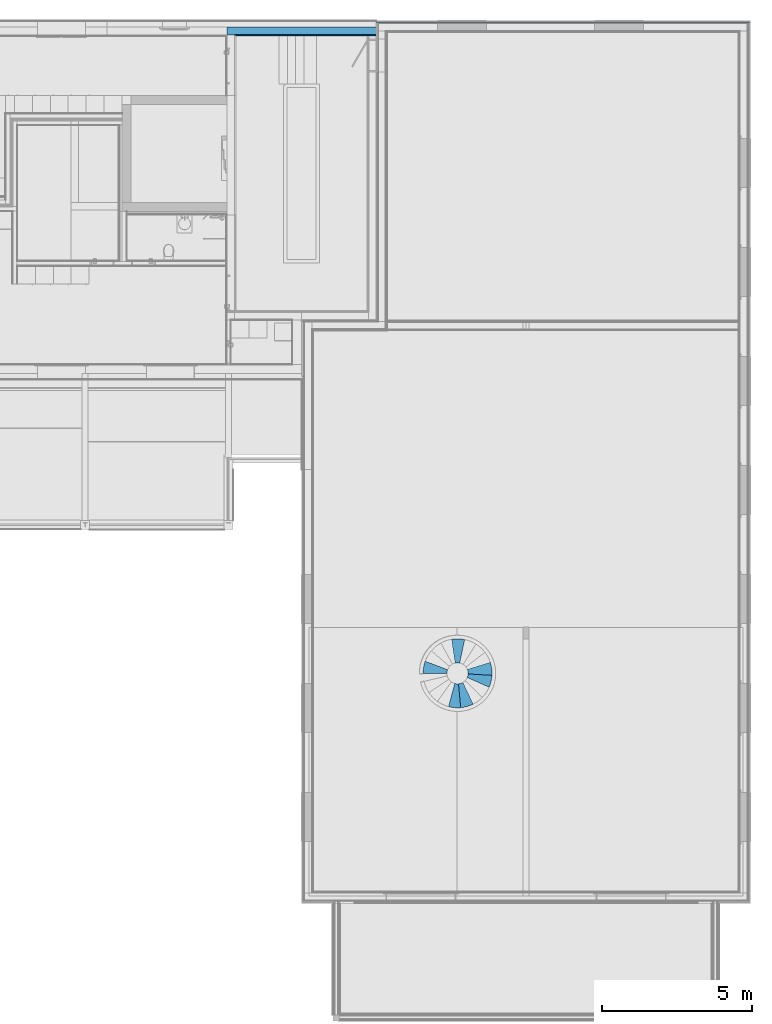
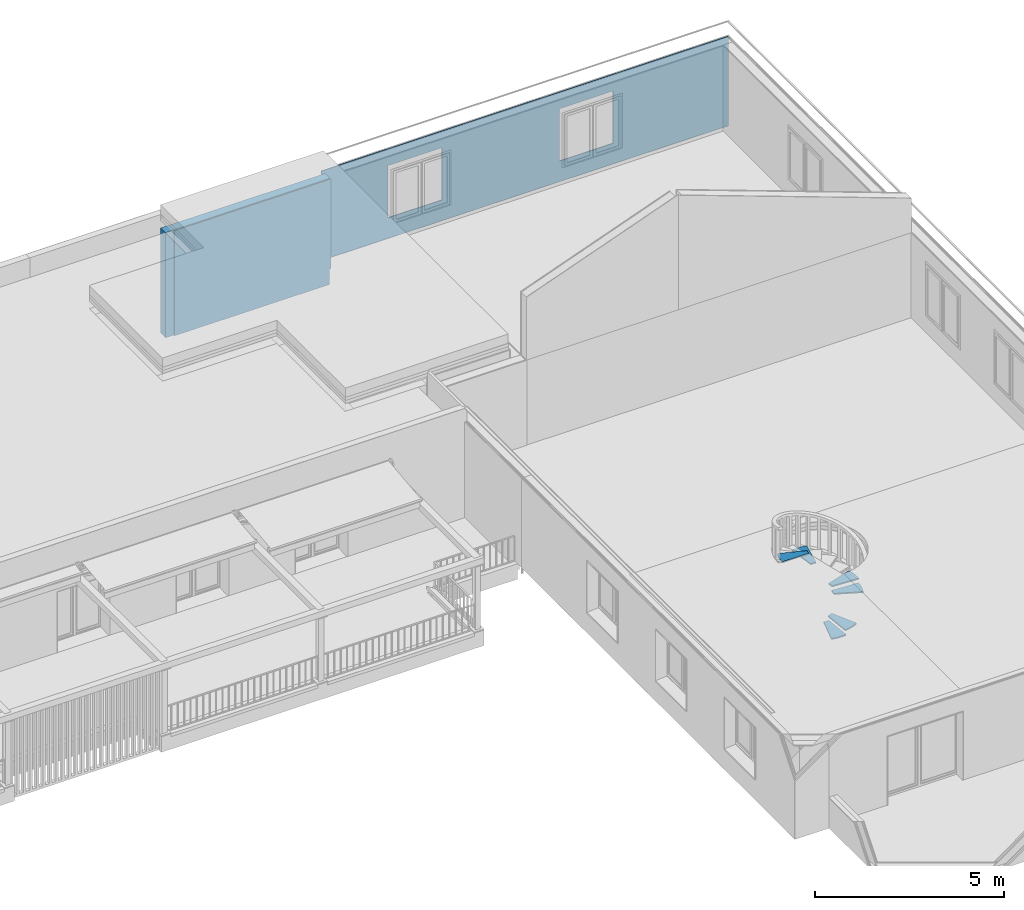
# One storey, part 19 of 36: 9 building element parts, 2 openings, 3 elements without a shape of their own.
"""IFC4 building model written with IfcOpenShell, lengths in millimetres."""

from ifc_helpers import new_model, entity, si_unit, converted_unit, derived_unit, direction, frame, origin_with_axes, place, context, subcontext, project, spatial, polygons, material, type_object, element, aggregate, save


model = new_model("IFC4")

# Units and contexts
model_context = context("Model", 3, precision=0.01, world=origin_with_axes(), true_north=direction((0.0, 1.0)))
body_context = subcontext(model_context, "Body", "Model", "MODEL_VIEW")
ifc_project = project(units=[si_unit("LENGTHUNIT", "METRE", prefix="MILLI"), si_unit("AREAUNIT", "SQUARE_METRE"), si_unit("VOLUMEUNIT", "CUBIC_METRE"), converted_unit("PLANEANGLEUNIT", "DEGREE", entity("IfcPlaneAngleMeasure", 0.0174532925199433), si_unit("PLANEANGLEUNIT", "RADIAN"), dimensions=[0, 0, 0, 0, 0, 0, 0]), converted_unit("TIMEUNIT", "Year", entity("IfcTimeMeasure", 31557600.0), si_unit("TIMEUNIT", "SECOND"), dimensions=[0, 0, 1, 0, 0, 0, 0]), si_unit("MASSUNIT", "GRAM", prefix="KILO"), si_unit("THERMODYNAMICTEMPERATUREUNIT", "DEGREE_CELSIUS"), si_unit("LUMINOUSINTENSITYUNIT", "LUMEN"), si_unit("ENERGYUNIT", "JOULE", prefix="MEGA"), derived_unit("THERMALCONDUCTANCEUNIT", [(si_unit("POWERUNIT", "WATT"), 1), (si_unit("LENGTHUNIT", "METRE"), -1), (si_unit("THERMODYNAMICTEMPERATUREUNIT", "KELVIN"), -1)]), derived_unit("SPECIFICHEATCAPACITYUNIT", [(si_unit("ENERGYUNIT", "JOULE"), 1), (si_unit("MASSUNIT", "GRAM", prefix="KILO"), -1), (si_unit("THERMODYNAMICTEMPERATUREUNIT", "KELVIN"), -1)]), derived_unit("MASSDENSITYUNIT", [(si_unit("MASSUNIT", "GRAM", prefix="KILO"), 1), (si_unit("VOLUMEUNIT", "CUBIC_METRE"), -1)])], contexts=[model_context])

# Site, building, storey
site_placement = place(None, origin_with_axes())
site = spatial("IfcSite", under=ifc_project, at=site_placement, Name="Gelände", CompositionType="ELEMENT")
building_placement = place(site_placement, origin_with_axes())
building = spatial("IfcBuilding", under=site, at=building_placement, Name="Gebäude", CompositionType="ELEMENT")
storey_placement = place(building_placement, frame((0.0, 0.0, 8700.0), z_axis=(0.0, 0.0, 1.0), x_axis=(1.0, 0.0, 0.0)))
storey = spatial("IfcBuildingStorey", under=building, at=storey_placement, Name="Attika", CompositionType="ELEMENT", Elevation=8700.0)

# Curtain wall, openings, building element part
curtain_wall_type = type_object("IfcCurtainWallType", Name="Fassade Typ 02 - Vertikale Schalung 71", PredefinedType="NOTDEFINED")
curtain_wall_placement = place(storey_placement, frame((32928.99744477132, 37947.59728131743, 500.0000000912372), z_axis=(0.0, 0.0, 1.0), x_axis=(-1.0, 0.0, 0.0)))
curtain_wall = element("IfcCurtainWall", 1, at=curtain_wall_placement, inside=storey, type_object=curtain_wall_type, Name="Wand-014", PredefinedType="NOTDEFINED")
opening_1_placement = place(curtain_wall_placement, frame((4391.999999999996, 0.0, 674.9999999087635), z_axis=(0.0, 0.0, 1.0), x_axis=(1.0, 0.0, 0.0)))
element("IfcOpeningElement", 2, at=opening_1_placement, cuts=curtain_wall, Name="Fenster-004", context=body_context, identifier="Reference", shape_type="Tessellation", body=[
    polygons([(-821.0000000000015, -0.9999999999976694, 1690.0), (-821.0000000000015, -0.9999999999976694, 0.0), (821.0000000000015, -0.9999999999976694, 0.0), (821.0000000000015, -0.9999999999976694, 1690.0), (-821.0000000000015, 71.99999999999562, 1690.0), (-821.0000000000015, 71.99999999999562, 0.0), (821.0000000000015, 71.99999999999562, 0.0), (821.0000000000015, 71.99999999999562, 1690.0)], [[[1, 2, 3, 4]], [[5, 6, 2, 1]], [[6, 7, 3, 2]], [[7, 8, 4, 3]], [[8, 5, 1, 4]], [[7, 6, 5, 8]]], closed=True),
])
opening_2_placement = place(curtain_wall_placement, frame((9633.999999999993, 0.0, 674.9999999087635), z_axis=(0.0, 0.0, 1.0), x_axis=(1.0, 0.0, 0.0)))
element("IfcOpeningElement", 3, at=opening_2_placement, cuts=curtain_wall, Name="Fenster-004", context=body_context, identifier="Reference", shape_type="Tessellation", body=[
    polygons([(-821.0000000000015, -0.9999999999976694, 1690.0), (-821.0000000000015, -0.9999999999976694, 0.0), (821.0000000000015, -0.9999999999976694, 0.0), (821.0000000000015, -0.9999999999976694, 1690.0), (-821.0000000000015, 71.99999999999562, 1690.0), (-821.0000000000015, 71.99999999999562, 0.0), (821.0000000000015, 71.99999999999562, 0.0), (821.0000000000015, 71.99999999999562, 1690.0)], [[[1, 2, 3, 4]], [[5, 6, 2, 1]], [[6, 7, 3, 2]], [[7, 8, 4, 3]], [[8, 5, 1, 4]], [[7, 6, 5, 8]]], closed=True),
])
ifc_material_1 = material(Name="Lattenrost vertikal")
building_element_part_1_placement = place(curtain_wall_placement, origin_with_axes())
building_element_part_1 = element("IfcBuildingElementPart", 4, at=building_element_part_1_placement, material=ifc_material_1, Name="Lattenrost vertikal", PredefinedType="NOTDEFINED", context=body_context, shape_type="Tessellation", body=[
    polygons([(45.99999999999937, 70.99999999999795, 7.217997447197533), (71.00000085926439, 71.00001874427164, 9.685926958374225), (12460.00000000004, 70.99999999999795, 9.685926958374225), (12460.00000000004, 70.99999999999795, 42.69563016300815), (71.00000085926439, 71.00001874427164, 42.69563016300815), (68.29999970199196, 70.99999999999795, 42.69563016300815), (68.29999970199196, 70.99999999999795, 12.52688014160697), (45.99999999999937, 70.99999999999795, 10.23497066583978), (45.99999999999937, 70.99999999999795, 2899.999999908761), (12500.00000000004, 70.99999999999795, 2899.999999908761), (12500.00000000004, 70.99999999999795, 0.0), (45.99999999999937, 70.99999999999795, 0.0), (5212.999999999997, 70.99999999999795, 2364.999999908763), (3570.999999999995, 70.99999999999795, 2364.999999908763), (3570.999999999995, 70.99999999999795, 674.9999999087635), (5212.999999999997, 70.99999999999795, 674.9999999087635), (10454.99999999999, 70.99999999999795, 674.9999999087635), (10454.99999999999, 70.99999999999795, 2364.999999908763), (8812.99999999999, 70.99999999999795, 2364.999999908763), (8812.99999999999, 70.99999999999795, 674.9999999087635), (45.99999103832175, 46.000008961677, 7.217996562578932), (12459.99999996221, 45.99999999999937, 7.217997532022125), (12459.99999996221, 45.99999999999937, 10.23497075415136), (12459.99999999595, 68.29999884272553, 12.52688014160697), (12459.99999999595, 68.29999884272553, 42.69563016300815), (68.29999970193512, 68.30001759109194, 42.69563016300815), (68.29999970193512, 68.30001759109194, 12.52688014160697), (45.99999103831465, 46.0000089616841, 10.23496974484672), (45.99999999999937, 45.99999999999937, 2899.999999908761), (12500.00000000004, 45.99999999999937, 2899.999999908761), (12500.00000000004, 45.99999999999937, 0.0), (45.99999999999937, 45.99999999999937, 0.0), (3570.999999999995, 45.99999999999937, 2364.999999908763), (5212.999999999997, 45.99999999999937, 2364.999999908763), (3570.999999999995, 45.99999999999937, 674.9999999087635), (5212.999999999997, 45.99999999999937, 674.9999999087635), (10454.99999999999, 45.99999999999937, 674.9999999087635), (10454.99999999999, 45.99999999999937, 2364.999999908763), (8812.99999999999, 45.99999999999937, 2364.999999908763), (8812.99999999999, 45.99999999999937, 674.9999999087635)], [[[1, 2, 3, 4, 5, 6, 7, 8, 9, 10, 11, 12], [13, 14, 15, 16], [17, 18, 19, 20]], [[1, 21, 2]], [[22, 3, 2, 21]], [[22, 23, 24, 25, 4, 3]], [[25, 26, 6, 5, 4]], [[7, 6, 26, 27]], [[8, 7, 27, 28]], [[29, 9, 8, 28]], [[10, 9, 29, 30]], [[10, 30, 31, 11]], [[31, 32, 12, 11]], [[12, 32, 21, 1]], [[33, 14, 13, 34]], [[35, 15, 14, 33]], [[36, 16, 15, 35]], [[34, 13, 16, 36]], [[37, 38, 18, 17]], [[38, 39, 19, 18]], [[39, 40, 20, 19]], [[40, 37, 17, 20]], [[32, 31, 30, 29, 28, 23, 22, 21], [35, 33, 34, 36], [37, 40, 39, 38]], [[24, 23, 28, 27]], [[25, 24, 27, 26]]], closed=True),
])
aggregate(curtain_wall, [building_element_part_1])

# Wall, building element parts
wall_type = type_object("IfcWallType", Name="Aussenwand Typ 04 300", PredefinedType="NOTDEFINED")
wall_placement = place(storey_placement, frame((20428.99744477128, 37437.59728131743, 0.0), z_axis=(0.0, 0.0, 1.0), x_axis=(-1.0, 0.0, 0.0)))
wall = element("IfcWall", 5, at=wall_placement, inside=storey, type_object=wall_type, Name="Wand-014", PredefinedType="NOTDEFINED")
ifc_material_2 = material(Name="Beton bewehrt")
building_element_part_2_placement = place(wall_placement, origin_with_axes())
building_element_part_2 = element("IfcBuildingElementPart", 6, at=building_element_part_2_placement, material=ifc_material_2, Name="Beton bewehrt", PredefinedType="NOTDEFINED", context=body_context, shape_type="Tessellation", body=[
    polygons([(-39.99999999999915, -299.9999999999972, 3400.0), (-39.99999999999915, -39.99999999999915, 3400.0), (-39.99999999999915, -39.99999999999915, 500.0), (-39.99999999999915, -299.9999999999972, 500.0), (4999.999999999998, -299.9999999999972, 3400.0), (4999.999999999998, -39.99999999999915, 3400.0), (4999.999999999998, -39.99999999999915, 0.0), (0.0, -39.99999999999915, 0.0), (0.0, -39.99999999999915, 500.0), (0.0, -299.9999999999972, 500.0), (0.0, -299.9999999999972, 0.0), (4999.999999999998, -299.9999999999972, 0.0)], [[[1, 2, 3, 4]], [[5, 6, 2, 1]], [[7, 8, 9, 3, 2, 6]], [[3, 9, 10, 4]], [[1, 4, 10, 11, 12, 5]], [[6, 5, 12, 7]], [[7, 12, 11, 8]], [[9, 8, 11, 10]]], closed=True),
])
ifc_material_3 = material(Name="Sichtbeton")
building_element_part_3_placement = place(wall_placement, origin_with_axes())
building_element_part_3 = element("IfcBuildingElementPart", 7, at=building_element_part_3_placement, material=ifc_material_3, Name="Sichtbeton", PredefinedType="NOTDEFINED", context=body_context, shape_type="Tessellation", body=[
    polygons([(-39.99999999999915, 0.0, 3400.0), (-39.99999999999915, 0.0, 500.0), (-39.99999999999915, -39.99999999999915, 500.0), (-39.99999999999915, -39.99999999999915, 3400.0), (0.0, 0.0, 0.0), (0.0, 0.0, 500.0), (4739.999999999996, 0.0, 3400.0), (4739.999999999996, 0.0, 0.0), (0.0, -39.99999999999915, 500.0), (0.0, -39.99999999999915, 0.0), (4739.999999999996, -39.99999999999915, 0.0), (4739.999999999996, -39.99999999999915, 3400.0)], [[[1, 2, 3, 4]], [[5, 6, 2, 1, 7, 8]], [[9, 3, 2, 6]], [[3, 9, 10, 11, 12, 4]], [[7, 1, 4, 12]], [[5, 10, 9, 6]], [[12, 11, 8, 7]], [[11, 10, 5, 8]]], closed=True),
])
aggregate(wall, [building_element_part_2, building_element_part_3])

# Stair, building element parts
stair_type = type_object("IfcStairType", Name="Treppentyp", PredefinedType="NOTDEFINED")
stair_placement = place(storey_placement, frame((22020.85993748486, 15863.01699226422, 650.0000000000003), z_axis=(0.0, 0.0, 1.0), x_axis=(0.8601646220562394, -0.5100164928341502, 0.0)))
stair = element("IfcStair", 8, at=stair_placement, inside=storey, type_object=stair_type, Name="Treppe-001", PredefinedType="NOTDEFINED")
ifc_material_4 = material(Name="Vollholzwerkstoff")
building_element_part_4_placement = place(stair_placement, origin_with_axes())
building_element_part_4 = element("IfcBuildingElementPart", 9, at=building_element_part_4_placement, material=ifc_material_4, Name="Vollholzwerkstoff", PredefinedType="NOTDEFINED", context=body_context, shape_type="Tessellation", body=[
    polygons([(918.9209839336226, 465.8965122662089, 607.0587990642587), (1132.405165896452, -305.0927898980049, 607.0587990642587), (1132.405165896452, -305.0927898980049, 647.0587990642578), (918.9209839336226, 465.8965122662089, 647.0587990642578), (967.7450250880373, 483.3624691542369, 607.0587990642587), (1013.488217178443, 507.7839150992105, 607.0587990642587), (1055.166056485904, 538.6352417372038, 607.0587990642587), (1524.191441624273, -110.542974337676, 607.0587990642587), (1452.242032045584, -161.207555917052, 607.0587990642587), (1376.639592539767, -206.2396389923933, 607.0587990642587), (1297.824147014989, -245.377126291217, 607.0587990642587), (1216.254419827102, -278.3922284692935, 607.0587990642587), (1216.254419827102, -278.3922284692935, 647.0587990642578), (1297.824147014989, -245.377126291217, 647.0587990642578), (1376.639592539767, -206.2396389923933, 647.0587990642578), (1452.242032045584, -161.207555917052, 647.0587990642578), (1524.191441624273, -110.542974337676, 647.0587990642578), (1055.166056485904, 538.6352417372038, 647.0587990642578), (1013.488217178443, 507.7839150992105, 647.0587990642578), (967.7450250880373, 483.3624691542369, 647.0587990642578)], [[[1, 2, 3, 4]], [[1, 5, 6, 7, 8, 9, 10, 11, 12, 2]], [[2, 12, 13, 3]], [[4, 3, 13, 14, 15, 16, 17, 18, 19, 20]], [[5, 1, 4, 20]], [[6, 5, 20, 19]], [[7, 6, 19, 18]], [[8, 7, 18, 17]], [[9, 8, 17, 16]], [[10, 9, 16, 15]], [[11, 10, 15, 14]], [[12, 11, 14, 13]]], closed=True),
])
building_element_part_5_placement = place(stair_placement, origin_with_axes())
building_element_part_5 = element("IfcBuildingElementPart", 10, at=building_element_part_5_placement, material=ifc_material_4, Name="Vollholzwerkstoff", PredefinedType="NOTDEFINED", context=body_context, shape_type="Tessellation", body=[
    polygons([(1031.595720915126, 520.0323918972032, 768.8234988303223), (1500.102679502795, -128.4282697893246, 768.8234988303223), (1500.102679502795, -128.4282697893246, 808.8234988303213), (1031.595720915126, 520.0323918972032, 808.8234988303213), (1071.28662744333, 553.4012184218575, 768.8234988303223), (1105.668220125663, 592.2181313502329, 768.8234988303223), (1134.000524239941, 635.6476971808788, 768.8234988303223), (1799.666150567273, 190.3315824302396, 768.8234988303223), (1749.8522299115, 117.7906238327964, 768.8234988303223), (1694.653118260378, 49.25832897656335, 768.8234988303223), (1634.39008737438, -14.86642812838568, 768.8234988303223), (1569.413882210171, -74.21042637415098, 768.8234988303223), (1569.413882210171, -74.21042637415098, 808.8234988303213), (1634.39008737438, -14.86642812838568, 808.8234988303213), (1694.653118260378, 49.25832897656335, 808.8234988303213), (1749.8522299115, 117.7906238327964, 808.8234988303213), (1799.666150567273, 190.3315824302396, 808.8234988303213), (1134.000524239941, 635.6476971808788, 808.8234988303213), (1105.668220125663, 592.2181313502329, 808.8234988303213), (1071.28662744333, 553.4012184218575, 808.8234988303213)], [[[1, 2, 3, 4]], [[1, 5, 6, 7, 8, 9, 10, 11, 12, 2]], [[2, 12, 13, 3]], [[4, 3, 13, 14, 15, 16, 17, 18, 19, 20]], [[5, 1, 4, 20]], [[6, 5, 20, 19]], [[7, 6, 19, 18]], [[8, 7, 18, 17]], [[9, 8, 17, 16]], [[10, 9, 16, 15]], [[11, 10, 15, 14]], [[12, 11, 14, 13]]], closed=True),
])
building_element_part_6_placement = place(stair_placement, origin_with_axes())
building_element_part_6 = element("IfcBuildingElementPart", 11, at=building_element_part_6_placement, material=ifc_material_4, Name="Vollholzwerkstoff", PredefinedType="NOTDEFINED", context=body_context, shape_type="Tessellation", body=[
    polygons([(1175.452520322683, 849.3639417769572, 1254.117598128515), (1969.558290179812, 946.2970438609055, 1254.117598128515), (1969.558290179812, 946.2970438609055, 1294.117598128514), (1175.452520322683, 849.3639417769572, 1294.117598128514), (1165.410866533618, 900.2364474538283, 1254.117598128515), (1148.034118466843, 949.0923096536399, 1254.117598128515), (1123.696265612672, 994.8800324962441, 1254.117598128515), (1835.184436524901, 1362.577939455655, 1254.117598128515), (1874.633279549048, 1283.917872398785, 1254.117598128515), (1907.970676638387, 1202.47933532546, 1254.117598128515), (1935.002596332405, 1118.736319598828, 1254.117598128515), (1955.571706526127, 1033.176229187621, 1254.117598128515), (1955.571706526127, 1033.176229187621, 1294.117598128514), (1935.002596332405, 1118.736319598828, 1294.117598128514), (1907.970676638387, 1202.47933532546, 1294.117598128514), (1874.633279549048, 1283.917872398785, 1294.117598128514), (1835.184436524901, 1362.577939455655, 1294.117598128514), (1123.696265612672, 994.8800324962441, 1294.117598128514), (1148.034118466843, 949.0923096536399, 1294.117598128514), (1165.410866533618, 900.2364474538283, 1294.117598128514)], [[[1, 2, 3, 4]], [[1, 5, 6, 7, 8, 9, 10, 11, 12, 2]], [[2, 12, 13, 3]], [[4, 3, 13, 14, 15, 16, 17, 18, 19, 20]], [[5, 1, 4, 20]], [[6, 5, 20, 19]], [[7, 6, 19, 18]], [[8, 7, 18, 17]], [[9, 8, 17, 16]], [[10, 9, 16, 15]], [[11, 10, 15, 14]], [[12, 11, 14, 13]]], closed=True),
])
building_element_part_7_placement = place(stair_placement, origin_with_axes())
building_element_part_7 = element("IfcBuildingElementPart", 12, at=building_element_part_7_placement, material=ifc_material_4, Name="Vollholzwerkstoff", PredefinedType="NOTDEFINED", context=body_context, shape_type="Tessellation", body=[
    polygons([(1138.602765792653, 968.8142888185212, 1415.88229789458), (1849.304509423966, 1336.10576925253, 1415.88229789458), (1849.304509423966, 1336.10576925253, 1455.882297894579), (1138.602765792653, 968.8142888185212, 1455.882297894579), (1111.48088355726, 1013.0098785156, 1415.88229789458), (1078.184610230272, 1052.761668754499, 1415.88229789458), (1039.43056184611, 1087.214105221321, 1415.88229789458), (1578.430937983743, 1679.57865737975, 1415.88229789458), (1642.793493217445, 1619.569667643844, 1415.88229789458), (1702.39396438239, 1554.828635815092, 1415.88229789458), (1756.885462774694, 1485.732369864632, 1415.88229789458), (1805.950835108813, 1412.683026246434, 1415.88229789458), (1805.950835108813, 1412.683026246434, 1455.882297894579), (1756.885462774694, 1485.732369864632, 1455.882297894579), (1702.39396438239, 1554.828635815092, 1455.882297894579), (1642.793493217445, 1619.569667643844, 1455.882297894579), (1578.430937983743, 1679.57865737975, 1455.882297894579), (1039.43056184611, 1087.214105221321, 1455.882297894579), (1078.184610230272, 1052.761668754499, 1455.882297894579), (1111.48088355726, 1013.0098785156, 1455.882297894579)], [[[1, 2, 3, 4]], [[1, 5, 6, 7, 8, 9, 10, 11, 12, 2]], [[2, 12, 13, 3]], [[4, 3, 13, 14, 15, 16, 17, 18, 19, 20]], [[5, 1, 4, 20]], [[6, 5, 20, 19]], [[7, 6, 19, 18]], [[8, 7, 18, 17]], [[9, 8, 17, 16]], [[10, 9, 16, 15]], [[11, 10, 15, 14]], [[12, 11, 14, 13]]], closed=True),
])
building_element_part_8_placement = place(stair_placement, origin_with_axes())
building_element_part_8 = element("IfcBuildingElementPart", 13, at=building_element_part_8_placement, material=ifc_material_4, Name="Vollholzwerkstoff", PredefinedType="NOTDEFINED", context=body_context, shape_type="Tessellation", body=[
    polygons([(710.6204987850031, 1141.113092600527, 2062.941096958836), (452.647018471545, 1898.377698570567, 2062.941096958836), (452.647018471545, 1898.377698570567, 2102.941096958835), (710.6204987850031, 1141.113092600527, 2102.941096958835), (662.8951892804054, 1120.836468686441, 2062.941096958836), (618.6501337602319, 1093.795357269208, 2062.941096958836), (578.8375924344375, 1060.57174822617, 2062.941096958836), (72.84179243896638, 1681.365931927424, 2062.941096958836), (141.722041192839, 1736.130233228, 2062.941096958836), (214.5767933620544, 1785.484082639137, 2062.941096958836), (290.9820172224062, 1829.140229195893, 2062.941096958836), (370.4930164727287, 1866.844583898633, 2062.941096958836), (370.4930164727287, 1866.844583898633, 2102.941096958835), (290.9820172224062, 1829.140229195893, 2102.941096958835), (214.5767933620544, 1785.484082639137, 2102.941096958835), (141.722041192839, 1736.130233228, 2102.941096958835), (72.84179243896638, 1681.365931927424, 2102.941096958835), (578.8375924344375, 1060.57174822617, 2102.941096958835), (618.6501337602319, 1093.795357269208, 2102.941096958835), (662.8951892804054, 1120.836468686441, 2102.941096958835)], [[[1, 2, 3, 4]], [[1, 5, 6, 7, 8, 9, 10, 11, 12, 2]], [[2, 12, 13, 3]], [[4, 3, 13, 14, 15, 16, 17, 18, 19, 20]], [[5, 1, 4, 20]], [[6, 5, 20, 19]], [[7, 6, 19, 18]], [[8, 7, 18, 17]], [[9, 8, 17, 16]], [[10, 9, 16, 15]], [[11, 10, 15, 14]], [[12, 11, 14, 13]]], closed=True),
])
building_element_part_9_placement = place(stair_placement, origin_with_axes())
building_element_part_9 = element("IfcBuildingElementPart", 14, at=building_element_part_9_placement, material=ifc_material_4, Name="Vollholzwerkstoff", PredefinedType="NOTDEFINED", context=body_context, shape_type="Tessellation", body=[
    polygons([(476.8308814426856, 743.3718281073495, 2709.999896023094), (-310.2911814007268, 600.4072933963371, 2709.999896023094), (-310.2911814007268, 600.4072933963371, 2749.999896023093), (476.8308814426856, 743.3718281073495, 2749.999896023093), (493.4808936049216, 682.8707893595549, 2709.999896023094), (520.5670273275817, 626.2674329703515, 2709.999896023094), (-167.5646703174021, 218.2542387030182, 2709.999896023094), (-215.8677500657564, 308.6471943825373, 2709.999896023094), (-255.9563035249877, 402.9710080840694, 2709.999896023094), (-287.5138299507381, 500.4809894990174, 2709.999896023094), (-287.5138299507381, 500.4809894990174, 2749.999896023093), (-255.9563035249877, 402.9710080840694, 2749.999896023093), (-215.8677500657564, 308.6471943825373, 2749.999896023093), (-167.5646703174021, 218.2542387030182, 2749.999896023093), (520.5670273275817, 626.2674329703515, 2749.999896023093), (493.4808936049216, 682.8707893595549, 2749.999896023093)], [[[1, 2, 3, 4]], [[1, 5, 6, 7, 8, 9, 10, 2]], [[2, 10, 11, 3]], [[4, 3, 11, 12, 13, 14, 15, 16]], [[5, 1, 4, 16]], [[6, 5, 16, 15]], [[7, 6, 15, 14]], [[8, 7, 14, 13]], [[9, 8, 13, 12]], [[10, 9, 12, 11]]], closed=True),
])
aggregate(stair, [building_element_part_4, building_element_part_5, building_element_part_6, building_element_part_7, building_element_part_8, building_element_part_9])

save(model, "model.ifc")
